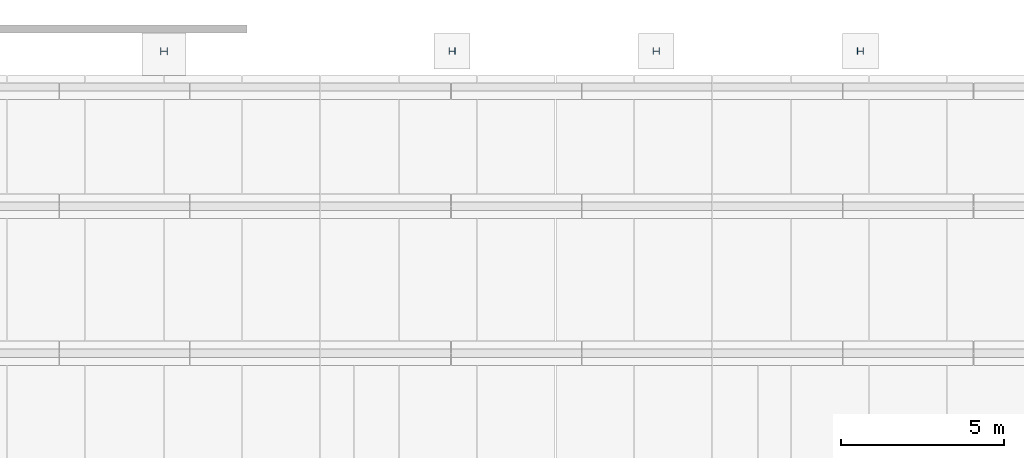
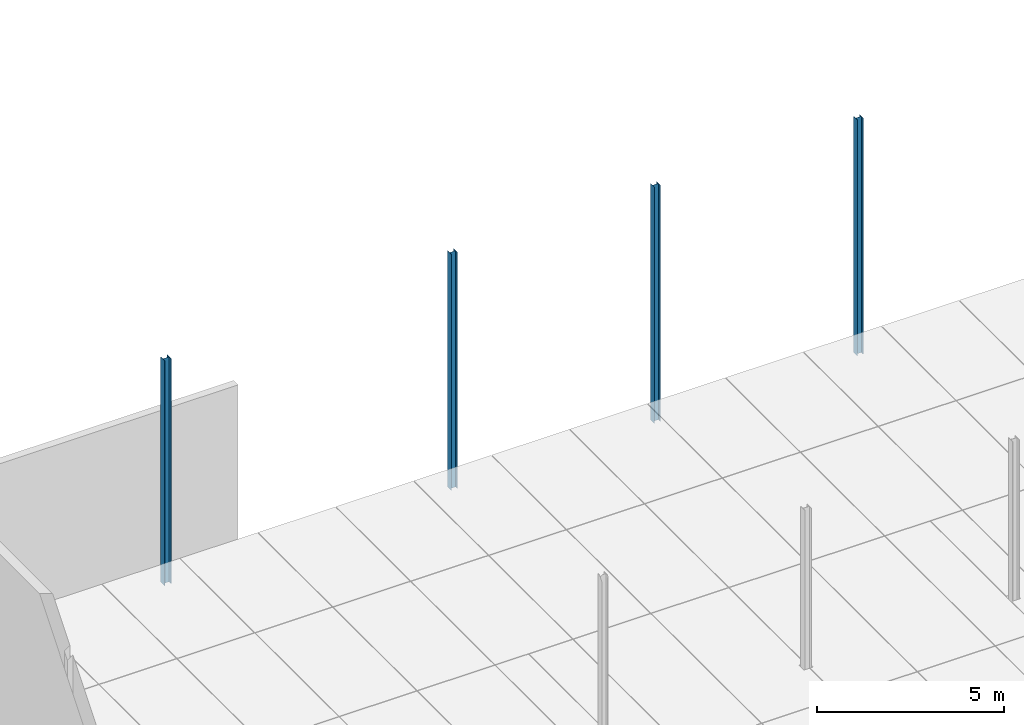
# One storey, part 40 of 59: 4 columns.
"""IFC2X3 building model written with IfcOpenShell, lengths in metres."""

from ifc_helpers import new_model, entity, si_unit, converted_unit, derived_unit, frame, origin, origin_with_axes, place, context, subcontext, project, spatial, polyline, outline, extrude, material, element, save


model = new_model("IFC2X3")

# Units and contexts
model_context = context("Model", 3, precision=1e-05, world=origin())
body_context = subcontext(model_context, "Body", "Model", "MODEL_VIEW")
ifc_project = project(units=[si_unit("LENGTHUNIT", "METRE"), si_unit("AREAUNIT", "SQUARE_METRE"), si_unit("VOLUMEUNIT", "CUBIC_METRE"), si_unit("MASSUNIT", "GRAM", prefix="KILO"), converted_unit("PLANEANGLEUNIT", "DEGREE", entity("IfcPlaneAngleMeasure", 0.0174532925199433), si_unit("PLANEANGLEUNIT", "RADIAN"), dimensions=[0, 0, 0, 0, 0, 0, 0]), derived_unit("THERMALTRANSMITTANCEUNIT", [(si_unit("POWERUNIT", "WATT"), 1), (si_unit("THERMODYNAMICTEMPERATUREUNIT", "KELVIN"), -1), (si_unit("LENGTHUNIT", "METRE"), -2)]), derived_unit("VOLUMETRICFLOWRATEUNIT", [(si_unit("LENGTHUNIT", "METRE"), 3), (converted_unit("TIMEUNIT", "hour", entity("IfcTimeMeasure", 3600.0), si_unit("TIMEUNIT", "SECOND"), dimensions=[0, 0, 1, 0, 0, 0, 0]), -1), (si_unit("LENGTHUNIT", "METRE"), -1)])], contexts=[model_context])

# Site, building, storey
site_placement = place(None, origin())
site = spatial("IfcSite", under=ifc_project, at=site_placement, Name="TWP_Speiseverteilzentrum SBW VZ II", CompositionType="ELEMENT")
building_placement = place(site_placement, origin())
building = spatial("IfcBuilding", under=site, at=building_placement, Name="Speiseverteilzentrum SBW VZ II", CompositionType="ELEMENT")
storey_placement = place(building_placement, frame((0.0, 0.0, 1.7307)))
storey = spatial("IfcBuildingStorey", under=building, at=storey_placement, Name="EG_Produktion_FFB", CompositionType="ELEMENT", Elevation=1.7307)

# Columns
ifc_material_1 = material(Name="S235")
column_1_placement = place(storey_placement, frame((38.03, 85.4500000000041, -1.5)))
element("IfcColumn", 1, at=column_1_placement, inside=storey, material=ifc_material_1, Name="Stahlstütze", context=body_context, shape_type="SweptSolid", body=[
    extrude(outline(polyline([(0.19, 0.0), (0.19, 0.2), (0.18, 0.2), (0.18, 0.10325), (0.01, 0.10325), (0.01, 0.2), (0.0, 0.2), (0.0, 0.0), (0.01, 0.0), (0.01, 0.09675), (0.18, 0.09675), (0.18, 0.0), (0.19, 0.0)])), origin_with_axes(), (0.0, 0.0, 1.0), 7.6893),
])
ifc_material_2 = material(Name="S235")
column_2_placement = place(storey_placement, frame((31.78, 85.4500000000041, -1.5)))
element("IfcColumn", 2, at=column_2_placement, inside=storey, material=ifc_material_2, Name="Stahlstütze", context=body_context, shape_type="SweptSolid", body=[
    extrude(outline(polyline([(0.19, 0.0), (0.19, 0.2), (0.18, 0.2), (0.18, 0.10325), (0.01, 0.10325), (0.01, 0.2), (0.0, 0.2), (0.0, 0.0), (0.01, 0.0), (0.01, 0.09675), (0.18, 0.09675), (0.18, 0.0), (0.19, 0.0)])), origin_with_axes(), (0.0, 0.0, 1.0), 7.6893),
])
ifc_material_3 = material(Name="S235")
column_3_placement = place(storey_placement, frame((25.53, 85.4500000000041, -1.5)))
element("IfcColumn", 3, at=column_3_placement, inside=storey, material=ifc_material_3, Name="Stahlstütze", context=body_context, shape_type="SweptSolid", body=[
    extrude(outline(polyline([(0.19, 0.0), (0.19, 0.2), (0.18, 0.2), (0.18, 0.10325), (0.01, 0.10325), (0.01, 0.2), (0.0, 0.2), (0.0, 0.0), (0.01, 0.0), (0.01, 0.09675), (0.18, 0.09675), (0.18, 0.0), (0.19, 0.0)])), origin_with_axes(), (0.0, 0.0, 1.0), 7.6893),
])
ifc_material_4 = material(Name="S235")
column_4_placement = place(storey_placement, frame((16.695, 85.4400000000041, -1.5)))
element("IfcColumn", 4, at=column_4_placement, inside=storey, material=ifc_material_4, Name="Stahlstütze", context=body_context, shape_type="SweptSolid", body=[
    extrude(outline(polyline([(0.21, 0.0), (0.21, 0.22), (0.199, 0.22), (0.199, 0.1135), (0.011, 0.1135), (0.011, 0.22), (0.0, 0.22), (0.0, 0.0), (0.011, 0.0), (0.011, 0.1065), (0.199, 0.1065), (0.199, 0.0), (0.21, 0.0)])), origin_with_axes(), (0.0, 0.0, 1.0), 7.3193),
])

save(model, "model.ifc")
